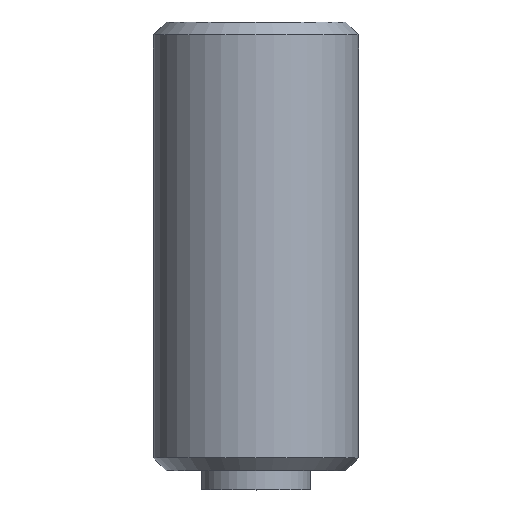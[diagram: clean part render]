
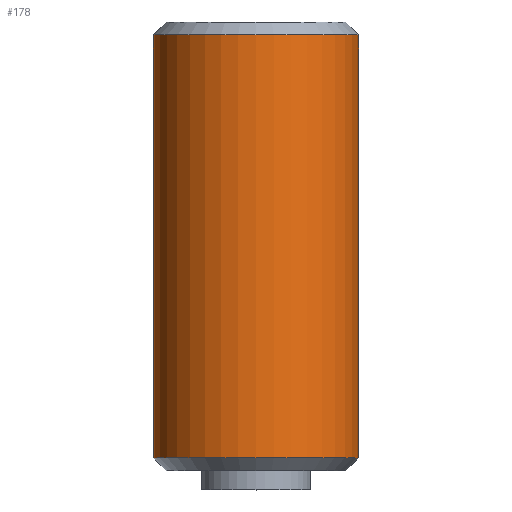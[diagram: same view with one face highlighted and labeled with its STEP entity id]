
A CAD part, top view. The second image highlights one B-rep face of the part: STEP entity #178.
In plain terms, the highlighted cylindrical face has radius 8 mm (diameter 16 mm), a full revolution.
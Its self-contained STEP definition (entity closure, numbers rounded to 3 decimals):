
#178 = ADVANCED_FACE( '', ( #213, #214 ), #215, .T. );
#213 = FACE_OUTER_BOUND( '', #259, .T. );
#214 = FACE_OUTER_BOUND( '', #260, .T. );
#215 = CYLINDRICAL_SURFACE( '', #261, 8. );
#259 = EDGE_LOOP( '', ( #333 ) );
#260 = EDGE_LOOP( '', ( #334 ) );
#261 = AXIS2_PLACEMENT_3D( '', #335, #336, #337 );
#333 = ORIENTED_EDGE( '', *, *, #406, .F. );
#334 = ORIENTED_EDGE( '', *, *, #389, .T. );
#335 = CARTESIAN_POINT( '', ( 0., 0., 0. ) );
#336 = DIRECTION( '', ( 0., 1., 0. ) );
#337 = DIRECTION( '', ( 0., 0., -1. ) );
#389 = EDGE_CURVE( '', #417, #417, #418, .T. );
#406 = EDGE_CURVE( '', #449, #449, #450, .T. );
#417 = VERTEX_POINT( '', #465 );
#418 = CIRCLE( '', #466, 8. );
#449 = VERTEX_POINT( '', #508 );
#450 = CIRCLE( '', #509, 8. );
#465 = CARTESIAN_POINT( '', ( 0., 34., -8. ) );
#466 = AXIS2_PLACEMENT_3D( '', #531, #532, #533 );
#508 = CARTESIAN_POINT( '', ( 0., 1., -8. ) );
#509 = AXIS2_PLACEMENT_3D( '', #560, #561, #562 );
#531 = CARTESIAN_POINT( '', ( 0., 34., 0. ) );
#532 = DIRECTION( '', ( 0., -1., 0. ) );
#533 = DIRECTION( '', ( 0., 0., -1. ) );
#560 = CARTESIAN_POINT( '', ( 0., 1., 0. ) );
#561 = DIRECTION( '', ( 0., -1., 0. ) );
#562 = DIRECTION( '', ( 0., 0., -1. ) );
